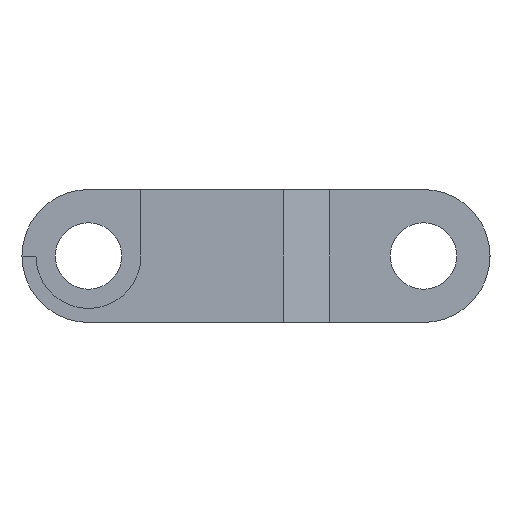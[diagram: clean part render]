
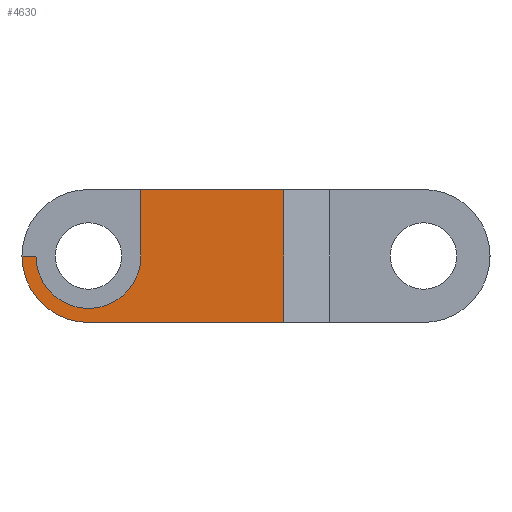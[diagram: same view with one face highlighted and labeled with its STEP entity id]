
A CAD part, left-side view. The second image highlights one B-rep face of the part: STEP entity #4630.
In plain terms, the highlighted planar face has unit normal (-1, 0, 0).
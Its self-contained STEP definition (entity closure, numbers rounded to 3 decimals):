
#536=CARTESIAN_POINT('Vertex',(-48.8,-2.1,5.)) ;
#539=CARTESIAN_POINT('Line Origine',(-48.8,-2.1,0.)) ;
#543=CARTESIAN_POINT('Vertex',(-48.8,-2.1,-5.)) ;
#2771=CARTESIAN_POINT('Vertex',(-48.8,12.6,-5.)) ;
#2774=CARTESIAN_POINT('Line Origine',(-48.8,5.25,-5.)) ;
#4430=CARTESIAN_POINT('Vertex',(-48.8,8.65,5.)) ;
#4433=CARTESIAN_POINT('Line Origine',(-48.8,3.275,5.)) ;
#4590=CARTESIAN_POINT('Axis2P3D Location',(-48.8,0.,0.)) ;
#4595=CARTESIAN_POINT('Line Origine',(-48.8,8.65,2.5)) ;
#4599=CARTESIAN_POINT('Vertex',(-48.8,8.65,0.)) ;
#4602=CARTESIAN_POINT('Axis2P3D Location',(-48.8,12.6,0.)) ;
#4606=CARTESIAN_POINT('Vertex',(-48.8,16.55,0.)) ;
#4609=CARTESIAN_POINT('Line Origine',(-48.8,17.075,0.)) ;
#4613=CARTESIAN_POINT('Vertex',(-48.8,17.6,0.)) ;
#4616=CARTESIAN_POINT('Axis2P3D Location',(-48.8,12.6,0.)) ;
#540=DIRECTION('Vector Direction',(0.,0.,1.)) ;
#2775=DIRECTION('Vector Direction',(0.,1.,0.)) ;
#4434=DIRECTION('Vector Direction',(0.,-1.,0.)) ;
#4591=DIRECTION('Axis2P3D Direction',(1.,0.,0.)) ;
#4592=DIRECTION('Axis2P3D XDirection',(0.,1.,0.)) ;
#4596=DIRECTION('Vector Direction',(0.,0.,1.)) ;
#4603=DIRECTION('Axis2P3D Direction',(1.,0.,0.)) ;
#4610=DIRECTION('Vector Direction',(0.,1.,0.)) ;
#4617=DIRECTION('Axis2P3D Direction',(1.,0.,0.)) ;
#4593=AXIS2_PLACEMENT_3D('Plane Axis2P3D',#4590,#4591,#4592) ;
#4604=AXIS2_PLACEMENT_3D('Circle Axis2P3D',#4602,#4603,$) ;
#4618=AXIS2_PLACEMENT_3D('Circle Axis2P3D',#4616,#4617,$) ;
#4622=ORIENTED_EDGE('',*,*,#4601,.F.) ;
#4623=ORIENTED_EDGE('',*,*,#4608,.F.) ;
#4624=ORIENTED_EDGE('',*,*,#4615,.F.) ;
#4625=ORIENTED_EDGE('',*,*,#4620,.F.) ;
#4626=ORIENTED_EDGE('',*,*,#2778,.F.) ;
#4627=ORIENTED_EDGE('',*,*,#545,.T.) ;
#4628=ORIENTED_EDGE('',*,*,#4437,.F.) ;
#541=VECTOR('Line Direction',#540,1.) ;
#2776=VECTOR('Line Direction',#2775,1.) ;
#4435=VECTOR('Line Direction',#4434,1.) ;
#4597=VECTOR('Line Direction',#4596,1.) ;
#4611=VECTOR('Line Direction',#4610,1.) ;
#4630=ADVANCED_FACE('PartBody',(#4629),#4594,.F.) ;
#4605=CIRCLE('generated circle',#4604,3.95) ;
#4619=CIRCLE('generated circle',#4618,5.) ;
#545=EDGE_CURVE('',#544,#537,#542,.T.) ;
#2778=EDGE_CURVE('',#544,#2772,#2777,.T.) ;
#4437=EDGE_CURVE('',#4431,#537,#4436,.T.) ;
#4601=EDGE_CURVE('',#4600,#4431,#4598,.T.) ;
#4608=EDGE_CURVE('',#4607,#4600,#4605,.F.) ;
#4615=EDGE_CURVE('',#4614,#4607,#4612,.F.) ;
#4620=EDGE_CURVE('',#2772,#4614,#4619,.T.) ;
#4621=EDGE_LOOP('',(#4622,#4623,#4624,#4625,#4626,#4627,#4628)) ;
#4629=FACE_OUTER_BOUND('',#4621,.T.) ;
#542=LINE('Line',#539,#541) ;
#2777=LINE('Line',#2774,#2776) ;
#4436=LINE('Line',#4433,#4435) ;
#4598=LINE('Line',#4595,#4597) ;
#4612=LINE('Line',#4609,#4611) ;
#4594=PLANE('',#4593) ;
#537=VERTEX_POINT('',#536) ;
#544=VERTEX_POINT('',#543) ;
#2772=VERTEX_POINT('',#2771) ;
#4431=VERTEX_POINT('',#4430) ;
#4600=VERTEX_POINT('',#4599) ;
#4607=VERTEX_POINT('',#4606) ;
#4614=VERTEX_POINT('',#4613) ;
